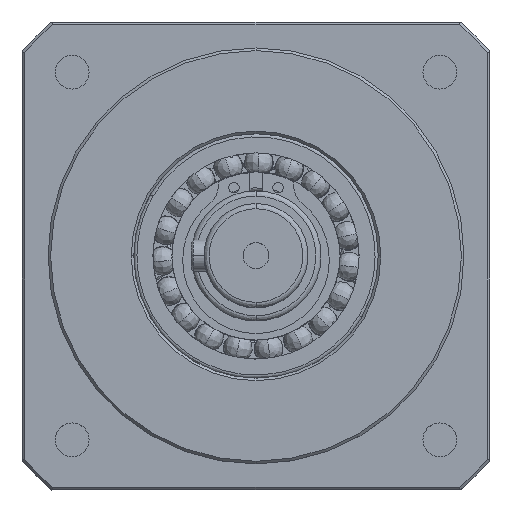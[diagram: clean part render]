
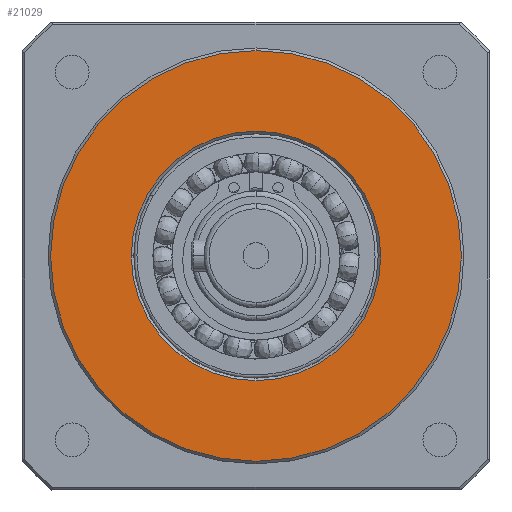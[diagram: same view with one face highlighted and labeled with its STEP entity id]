
A CAD part, top view. The second image highlights one B-rep face of the part: STEP entity #21029.
In plain terms, the highlighted planar face has unit normal (0, 0, 1).
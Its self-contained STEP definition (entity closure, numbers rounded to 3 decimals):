
#408 = CARTESIAN_POINT ( 'NONE',  ( 0., 0., 13. ) ) ;
#913 = DIRECTION ( 'NONE',  ( 0., 0., -1. ) ) ;
#1918 = PLANE ( 'NONE',  #16595 ) ;
#2874 = DIRECTION ( 'NONE',  ( 1., 0., 0. ) ) ;
#4676 = AXIS2_PLACEMENT_3D ( 'NONE', #11723, #28264, #14119 ) ;
#4950 = AXIS2_PLACEMENT_3D ( 'NONE', #22969, #8881, #25356 ) ;
#7575 = CIRCLE ( 'NONE', #4676, 39.5 ) ;
#7836 = VERTEX_POINT ( 'NONE', #10381 ) ;
#8581 = FACE_OUTER_BOUND ( 'NONE', #14151, .T. ) ;
#8881 = DIRECTION ( 'NONE',  ( 0., 0., 1. ) ) ;
#9800 = EDGE_CURVE ( 'NONE', #11462, #7836, #7575, .T. ) ;
#10280 = CARTESIAN_POINT ( 'NONE',  ( 0., 39.5, 13. ) ) ;
#10381 = CARTESIAN_POINT ( 'NONE',  ( 0., -39.5, 13. ) ) ;
#11165 = ORIENTED_EDGE ( 'NONE', *, *, #28004, .T. ) ;
#11462 = VERTEX_POINT ( 'NONE', #10280 ) ;
#11723 = CARTESIAN_POINT ( 'NONE',  ( 0., 0., 13. ) ) ;
#11799 = ORIENTED_EDGE ( 'NONE', *, *, #23390, .T. ) ;
#13957 = DIRECTION ( 'NONE',  ( 0., 0., 1. ) ) ;
#14119 = DIRECTION ( 'NONE',  ( 0., 1., 0. ) ) ;
#14151 = EDGE_LOOP ( 'NONE', ( #17644, #11165 ) ) ;
#15279 = CARTESIAN_POINT ( 'NONE',  ( 0., 0., 13. ) ) ;
#16493 = CARTESIAN_POINT ( 'NONE',  ( -24., 0., 13. ) ) ;
#16595 = AXIS2_PLACEMENT_3D ( 'NONE', #23307, #13957, #30469 ) ;
#16982 = EDGE_LOOP ( 'NONE', ( #11799, #24047 ) ) ;
#17132 = DIRECTION ( 'NONE',  ( 0., 0., -1. ) ) ;
#17621 = DIRECTION ( 'NONE',  ( 1., 0., 0. ) ) ;
#17644 = ORIENTED_EDGE ( 'NONE', *, *, #9800, .T. ) ;
#17670 = EDGE_CURVE ( 'NONE', #18127, #27708, #20510, .T. ) ;
#18127 = VERTEX_POINT ( 'NONE', #16493 ) ;
#18276 = CARTESIAN_POINT ( 'NONE',  ( 24., 0., 13. ) ) ;
#19784 = AXIS2_PLACEMENT_3D ( 'NONE', #408, #17132, #2874 ) ;
#20510 = CIRCLE ( 'NONE', #30741, 24. ) ;
#21029 = ADVANCED_FACE ( 'NONE', ( #28151, #8581 ), #1918, .T. ) ;
#21430 = CIRCLE ( 'NONE', #4950, 39.5 ) ;
#22969 = CARTESIAN_POINT ( 'NONE',  ( 0., 0., 13. ) ) ;
#23307 = CARTESIAN_POINT ( 'NONE',  ( -39.974, -39.974, 13. ) ) ;
#23390 = EDGE_CURVE ( 'NONE', #27708, #18127, #24655, .T. ) ;
#24047 = ORIENTED_EDGE ( 'NONE', *, *, #17670, .T. ) ;
#24655 = CIRCLE ( 'NONE', #19784, 24. ) ;
#25356 = DIRECTION ( 'NONE',  ( 0., 1., 0. ) ) ;
#27708 = VERTEX_POINT ( 'NONE', #18276 ) ;
#28004 = EDGE_CURVE ( 'NONE', #7836, #11462, #21430, .T. ) ;
#28151 = FACE_BOUND ( 'NONE', #16982, .T. ) ;
#28264 = DIRECTION ( 'NONE',  ( 0., 0., 1. ) ) ;
#30469 = DIRECTION ( 'NONE',  ( 1., 0., 0. ) ) ;
#30741 = AXIS2_PLACEMENT_3D ( 'NONE', #15279, #913, #17621 ) ;
